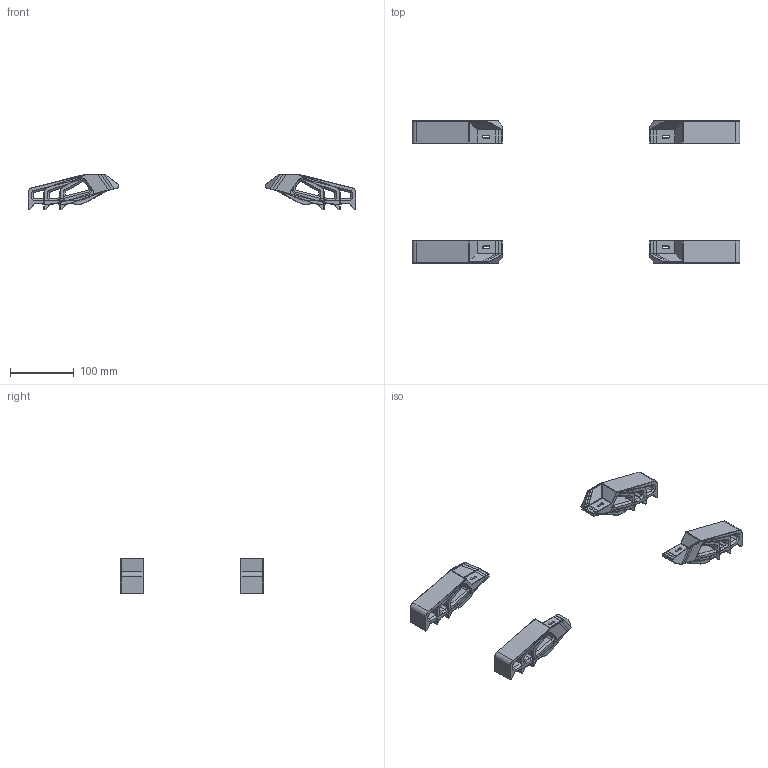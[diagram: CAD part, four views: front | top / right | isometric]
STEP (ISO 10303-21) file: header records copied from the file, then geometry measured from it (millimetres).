
FILE_DESCRIPTION(/* description */ (''),/* implementation_level */ '2;1');
FILE_NAME(/* name */ 'quattrobox_mount_monolith.step',/* time_stamp */ '2025-05-28T18:50:37-03:00',/* author */ (''),/* organization */ (''),/* preprocessor_version */ 'ST-DEVELOPER v20.1',/* originating_system */ 'Autodesk Translation Framework v14.10.0.0',/* authorisation */ '');
FILE_SCHEMA (('AUTOMOTIVE_DESIGN { 1 0 10303 214 3 1 1 }'));
Length unit declared in the file: millimetre
Products named in the file (10): quattrobox_mount_monolith; 350; 350mm; 350mm(Mirror); 300; 300mm(Mirror); 300mm; 250; 250mm; 250mm(Mirror)
Assembly tree (15 placements, depth 3):
  quattrobox_mount_monolith
    350
      350mm  x2
      350mm(Mirror)  x2
    300
      300mm(Mirror)  x2
      300mm  x2
    250
      250mm  x2
      250mm(Mirror)  x2
Bounding box: 514.15 x 222.73 x 55.68 mm (x, y, z)
Volume: 805221.6 mm3; surface area: 230772.2 mm2
Topology: 12 solids, 12 shells, 1596 faces, 3896 edges, 2336 vertices
Faces by surface type: plane 816, cone 312, cylinder 264, bspline 204
Entity records: 25770 total; most frequent: CARTESIAN_POINT 7231, ORIENTED_EDGE 3896, DIRECTION 3618, EDGE_CURVE 1948, LINE 1260, VECTOR 1260, AXIS2_PLACEMENT_3D 1179, VERTEX_POINT 1168
